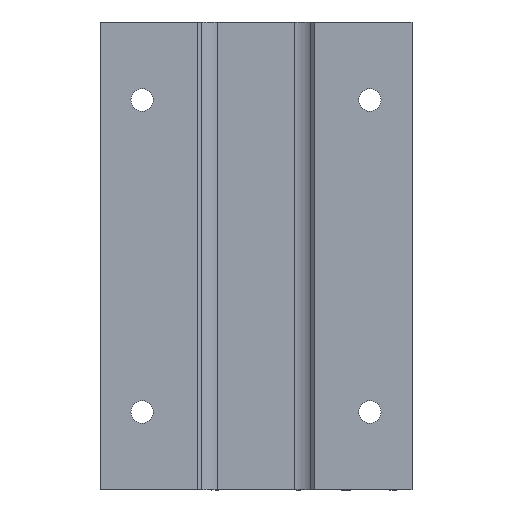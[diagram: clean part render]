
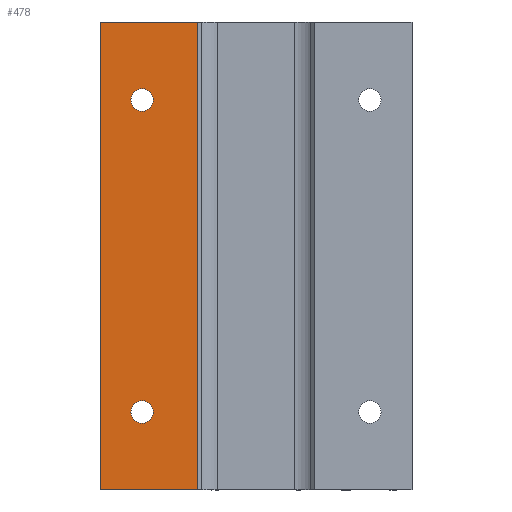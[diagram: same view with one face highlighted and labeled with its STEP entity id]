
A CAD part, front view. The second image highlights one B-rep face of the part: STEP entity #478.
In plain terms, the highlighted planar face has unit normal (0, -1, 0).
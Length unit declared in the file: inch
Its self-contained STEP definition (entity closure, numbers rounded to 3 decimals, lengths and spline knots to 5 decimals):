
#117 = VECTOR ( 'NONE', #2769, 39.37008 ) ;
#189 = DIRECTION ( 'NONE',  ( 0., 1., 0. ) ) ;
#478 = ADVANCED_FACE ( 'NONE', ( #2355, #8438, #11894 ), #9670, .T. ) ;
#751 = CARTESIAN_POINT ( 'NONE',  ( 0.00215, -0.83415, 0. ) ) ;
#1207 = ORIENTED_EDGE ( 'NONE', *, *, #11393, .T. ) ;
#1232 = DIRECTION ( 'NONE',  ( 1., 0., 0. ) ) ;
#1426 = AXIS2_PLACEMENT_3D ( 'NONE', #23526, #21411, #11514 ) ;
#1554 = ORIENTED_EDGE ( 'NONE', *, *, #25023, .T. ) ;
#1855 = VERTEX_POINT ( 'NONE', #1926 ) ;
#1926 = CARTESIAN_POINT ( 'NONE',  ( -1., -0.83415, 0. ) ) ;
#2329 = EDGE_CURVE ( 'NONE', #15022, #18843, #9373, .T. ) ;
#2355 = FACE_OUTER_BOUND ( 'NONE', #15282, .T. ) ;
#2618 = CARTESIAN_POINT ( 'NONE',  ( -0.375, -0.83415, 0. ) ) ;
#2708 = LINE ( 'NONE', #751, #17667 ) ;
#2769 = DIRECTION ( 'NONE',  ( 0., 0., -1. ) ) ;
#2822 = CARTESIAN_POINT ( 'NONE',  ( -1., -0.83415, -3. ) ) ;
#3015 = CIRCLE ( 'NONE', #6391, 0.072 ) ;
#3287 = DIRECTION ( 'NONE',  ( 0., 0., 1. ) ) ;
#3309 = ORIENTED_EDGE ( 'NONE', *, *, #21152, .T. ) ;
#3730 = VERTEX_POINT ( 'NONE', #20278 ) ;
#3888 = EDGE_CURVE ( 'NONE', #18843, #15022, #18219, .T. ) ;
#4063 = CARTESIAN_POINT ( 'NONE',  ( -0.73, -0.83415, -2.5 ) ) ;
#4108 = VERTEX_POINT ( 'NONE', #25361 ) ;
#4431 = AXIS2_PLACEMENT_3D ( 'NONE', #12663, #24820, #6614 ) ;
#6150 = CIRCLE ( 'NONE', #4431, 0.072 ) ;
#6391 = AXIS2_PLACEMENT_3D ( 'NONE', #23223, #20974, #3287 ) ;
#6614 = DIRECTION ( 'NONE',  ( 0., 0., 1. ) ) ;
#7038 = VECTOR ( 'NONE', #1232, 39.37008 ) ;
#7339 = CARTESIAN_POINT ( 'NONE',  ( -0.73, -0.83415, -0.572 ) ) ;
#7942 = DIRECTION ( 'NONE',  ( 0., 1., 0. ) ) ;
#8238 = DIRECTION ( 'NONE',  ( 0., 0., 1. ) ) ;
#8416 = CARTESIAN_POINT ( 'NONE',  ( -0.73, -0.83415, -2.572 ) ) ;
#8438 = FACE_BOUND ( 'NONE', #16434, .T. ) ;
#9011 = EDGE_LOOP ( 'NONE', ( #17182, #19648 ) ) ;
#9095 = ORIENTED_EDGE ( 'NONE', *, *, #17458, .T. ) ;
#9165 = LINE ( 'NONE', #2822, #7038 ) ;
#9259 = ORIENTED_EDGE ( 'NONE', *, *, #21605, .T. ) ;
#9373 = CIRCLE ( 'NONE', #11031, 0.072 ) ;
#9518 = DIRECTION ( 'NONE',  ( 0., 0., 1. ) ) ;
#9670 = PLANE ( 'NONE',  #1426 ) ;
#10649 = ORIENTED_EDGE ( 'NONE', *, *, #20177, .F. ) ;
#11031 = AXIS2_PLACEMENT_3D ( 'NONE', #4063, #7942, #14085 ) ;
#11393 = EDGE_CURVE ( 'NONE', #4108, #3730, #9165, .T. ) ;
#11514 = DIRECTION ( 'NONE',  ( 0., 0., -1. ) ) ;
#11894 = FACE_BOUND ( 'NONE', #9011, .T. ) ;
#12663 = CARTESIAN_POINT ( 'NONE',  ( -0.73, -0.83415, -0.5 ) ) ;
#13248 = AXIS2_PLACEMENT_3D ( 'NONE', #14122, #189, #8238 ) ;
#14085 = DIRECTION ( 'NONE',  ( 0., 0., 1. ) ) ;
#14122 = CARTESIAN_POINT ( 'NONE',  ( -0.73, -0.83415, -2.5 ) ) ;
#15022 = VERTEX_POINT ( 'NONE', #8416 ) ;
#15282 = EDGE_LOOP ( 'NONE', ( #9259, #1207, #1554, #10649 ) ) ;
#15518 = VERTEX_POINT ( 'NONE', #18140 ) ;
#15521 = LINE ( 'NONE', #19441, #25510 ) ;
#16434 = EDGE_LOOP ( 'NONE', ( #3309, #9095 ) ) ;
#16762 = DIRECTION ( 'NONE',  ( 1., 0., 0. ) ) ;
#17182 = ORIENTED_EDGE ( 'NONE', *, *, #3888, .T. ) ;
#17458 = EDGE_CURVE ( 'NONE', #18173, #15518, #6150, .T. ) ;
#17667 = VECTOR ( 'NONE', #16762, 39.37008 ) ;
#17958 = CARTESIAN_POINT ( 'NONE',  ( -0.73, -0.83415, -2.428 ) ) ;
#18140 = CARTESIAN_POINT ( 'NONE',  ( -0.73, -0.83415, -0.428 ) ) ;
#18173 = VERTEX_POINT ( 'NONE', #7339 ) ;
#18219 = CIRCLE ( 'NONE', #13248, 0.072 ) ;
#18843 = VERTEX_POINT ( 'NONE', #17958 ) ;
#19441 = CARTESIAN_POINT ( 'NONE',  ( -0.375, -0.83415, 0. ) ) ;
#19648 = ORIENTED_EDGE ( 'NONE', *, *, #2329, .T. ) ;
#20177 = EDGE_CURVE ( 'NONE', #1855, #23308, #2708, .T. ) ;
#20278 = CARTESIAN_POINT ( 'NONE',  ( -0.375, -0.83415, -3. ) ) ;
#20974 = DIRECTION ( 'NONE',  ( 0., 1., 0. ) ) ;
#21152 = EDGE_CURVE ( 'NONE', #15518, #18173, #3015, .T. ) ;
#21411 = DIRECTION ( 'NONE',  ( 0., -1., 0. ) ) ;
#21605 = EDGE_CURVE ( 'NONE', #1855, #4108, #24669, .T. ) ;
#23223 = CARTESIAN_POINT ( 'NONE',  ( -0.73, -0.83415, -0.5 ) ) ;
#23308 = VERTEX_POINT ( 'NONE', #2618 ) ;
#23526 = CARTESIAN_POINT ( 'NONE',  ( -1., -0.83415, 0. ) ) ;
#23588 = CARTESIAN_POINT ( 'NONE',  ( -1., -0.83415, 0. ) ) ;
#24669 = LINE ( 'NONE', #23588, #117 ) ;
#24820 = DIRECTION ( 'NONE',  ( 0., 1., 0. ) ) ;
#25023 = EDGE_CURVE ( 'NONE', #3730, #23308, #15521, .T. ) ;
#25361 = CARTESIAN_POINT ( 'NONE',  ( -1., -0.83415, -3. ) ) ;
#25510 = VECTOR ( 'NONE', #9518, 39.37008 ) ;
